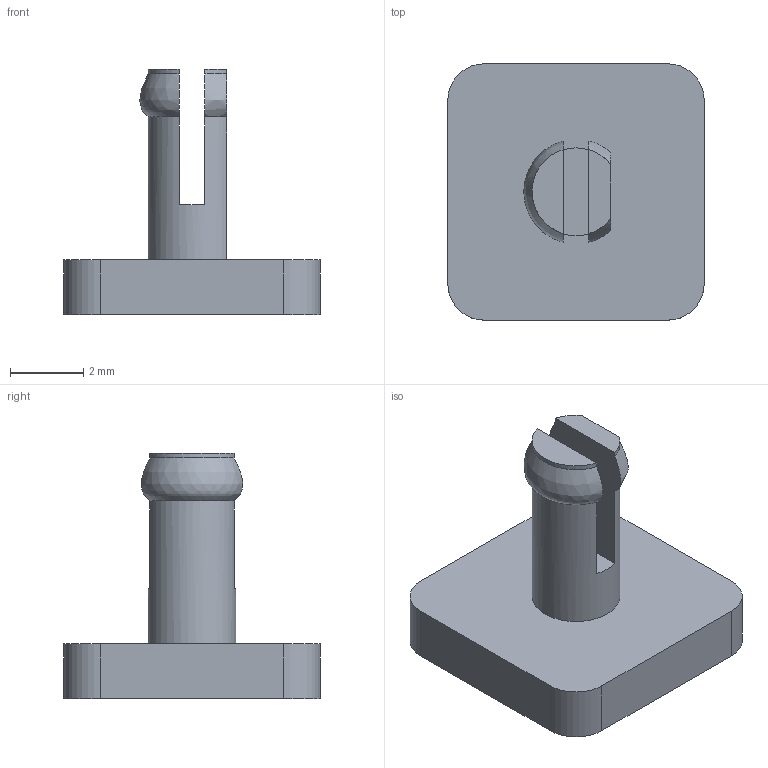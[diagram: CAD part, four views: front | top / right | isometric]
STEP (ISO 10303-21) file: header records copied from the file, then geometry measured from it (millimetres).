
FILE_DESCRIPTION(('Open CASCADE Model'),'2;1');
FILE_NAME('Open CASCADE Shape Model','2026-09-27T04:50:34',('Author'),( 'Open CASCADE'),'Open CASCADE STEP processor 7.8','Open CASCADE 7.8' ,'Unknown');
FILE_SCHEMA(('AUTOMOTIVE_DESIGN { 1 0 10303 214 1 1 1 1 }'));
Length unit declared in the file: millimetre
Products named in the file (1): Open CASCADE STEP translator 7.8 9
Bounding box: 7 x 7 x 6.7 mm (x, y, z)
Volume: 89.2 mm3; surface area: 188.4 mm2
Topology: 1 solids, 1 shells, 23 faces, 60 edges, 40 vertices
Faces by surface type: plane 12, cylinder 8, bspline 3
Entity records: 2435 total; most frequent: CARTESIAN_POINT 1338, DIRECTION 167, ORIENTED_EDGE 120, PCURVE 120, DEFINITIONAL_REPRESENTATION 120, LINE 93, VECTOR 93, EDGE_CURVE 60
